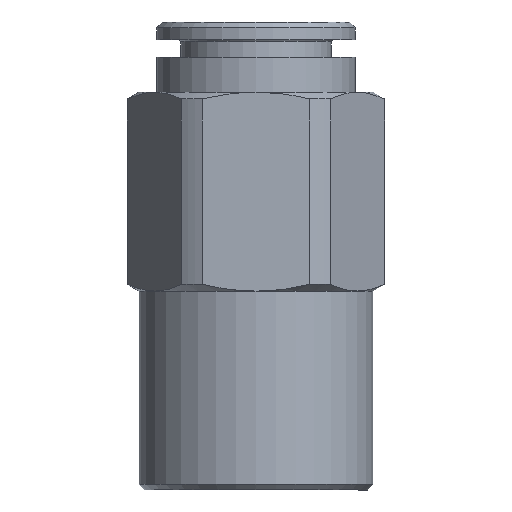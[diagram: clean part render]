
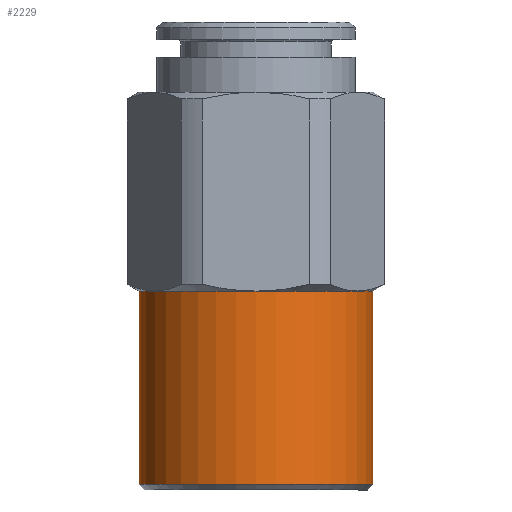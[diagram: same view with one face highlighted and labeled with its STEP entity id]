
A CAD part, front view. The second image highlights one B-rep face of the part: STEP entity #2229.
In plain terms, the highlighted cylindrical face has radius 10 mm (diameter 20 mm), a full revolution.
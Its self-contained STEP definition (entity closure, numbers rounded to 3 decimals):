
#1005=CYLINDRICAL_SURFACE('',#2105,10.);
#1062=ORIENTED_EDGE('',*,*,#1342,.T.);
#1063=ORIENTED_EDGE('',*,*,#1340,.F.);
#1064=ORIENTED_EDGE('',*,*,#1343,.F.);
#1065=ORIENTED_EDGE('',*,*,#1344,.T.);
#1066=ORIENTED_EDGE('',*,*,#1345,.T.);
#1067=ORIENTED_EDGE('',*,*,#1346,.F.);
#1068=ORIENTED_EDGE('',*,*,#1347,.F.);
#1214=CIRCLE('',#2103,10.);
#1215=CIRCLE('',#2106,10.);
#1216=CIRCLE('',#2107,10.);
#1217=CIRCLE('',#2108,10.);
#1218=CIRCLE('',#2109,10.);
#1219=CIRCLE('',#2110,10.);
#1220=CIRCLE('',#2111,10.);
#1270=VERTEX_POINT('',#1910);
#1272=VERTEX_POINT('',#1918);
#1273=VERTEX_POINT('',#1922);
#1274=VERTEX_POINT('',#1924);
#1275=VERTEX_POINT('',#1926);
#1276=VERTEX_POINT('',#1928);
#1277=VERTEX_POINT('',#1930);
#1340=EDGE_CURVE('',#1270,#1272,#1214,.T.);
#1342=EDGE_CURVE('',#1273,#1273,#1215,.T.);
#1343=EDGE_CURVE('',#1274,#1270,#1216,.T.);
#1344=EDGE_CURVE('',#1274,#1275,#1217,.T.);
#1345=EDGE_CURVE('',#1275,#1276,#1218,.T.);
#1346=EDGE_CURVE('',#1277,#1276,#1219,.T.);
#1347=EDGE_CURVE('',#1272,#1277,#1220,.T.);
#1428=EDGE_LOOP('',(#1062));
#1429=EDGE_LOOP('',(#1063,#1064,#1065,#1066,#1067,#1068));
#1512=FACE_BOUND('',#1428,.T.);
#1513=FACE_BOUND('',#1429,.T.);
#1651=DIRECTION('',(0.,1.,0.));
#1652=DIRECTION('',(0.,0.,10.));
#1655=DIRECTION('',(0.,1.,0.));
#1656=DIRECTION('',(1.,0.,0.));
#1657=DIRECTION('',(0.,1.,0.));
#1658=DIRECTION('',(0.,0.,10.));
#1659=DIRECTION('',(0.,1.,0.));
#1660=DIRECTION('',(0.,0.,10.));
#1661=DIRECTION('',(0.,-1.,0.));
#1662=DIRECTION('',(0.,0.,10.));
#1663=DIRECTION('',(0.,-1.,0.));
#1664=DIRECTION('',(0.,0.,10.));
#1665=DIRECTION('',(0.,1.,0.));
#1666=DIRECTION('',(0.,0.,10.));
#1667=DIRECTION('',(0.,1.,0.));
#1668=DIRECTION('',(0.,0.,10.));
#1910=CARTESIAN_POINT('',(26.862,25.946,10.));
#1918=CARTESIAN_POINT('',(35.522,25.946,5.));
#1919=CARTESIAN_POINT('',(26.862,25.946,0.));
#1921=CARTESIAN_POINT('',(26.862,9.446,0.));
#1922=CARTESIAN_POINT('',(26.862,9.446,10.));
#1923=CARTESIAN_POINT('',(26.862,9.446,0.));
#1924=CARTESIAN_POINT('',(18.201,25.946,5.));
#1925=CARTESIAN_POINT('',(26.862,25.946,0.));
#1926=CARTESIAN_POINT('',(18.201,25.946,-5.));
#1927=CARTESIAN_POINT('',(26.862,25.946,0.));
#1928=CARTESIAN_POINT('',(26.862,25.946,-10.));
#1929=CARTESIAN_POINT('',(26.862,25.946,0.));
#1930=CARTESIAN_POINT('',(35.522,25.946,-5.));
#1931=CARTESIAN_POINT('',(26.862,25.946,0.));
#1932=CARTESIAN_POINT('',(26.862,25.946,0.));
#2103=AXIS2_PLACEMENT_3D('',#1919,#1651,#1652);
#2105=AXIS2_PLACEMENT_3D('',#1921,#1655,#1656);
#2106=AXIS2_PLACEMENT_3D('',#1923,#1657,#1658);
#2107=AXIS2_PLACEMENT_3D('',#1925,#1659,#1660);
#2108=AXIS2_PLACEMENT_3D('',#1927,#1661,#1662);
#2109=AXIS2_PLACEMENT_3D('',#1929,#1663,#1664);
#2110=AXIS2_PLACEMENT_3D('',#1931,#1665,#1666);
#2111=AXIS2_PLACEMENT_3D('',#1932,#1667,#1668);
#2229=ADVANCED_FACE('',(#1512,#1513),#1005,.T.);
